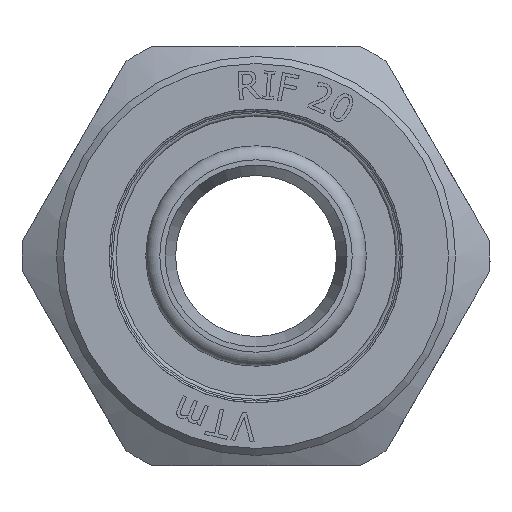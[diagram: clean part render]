
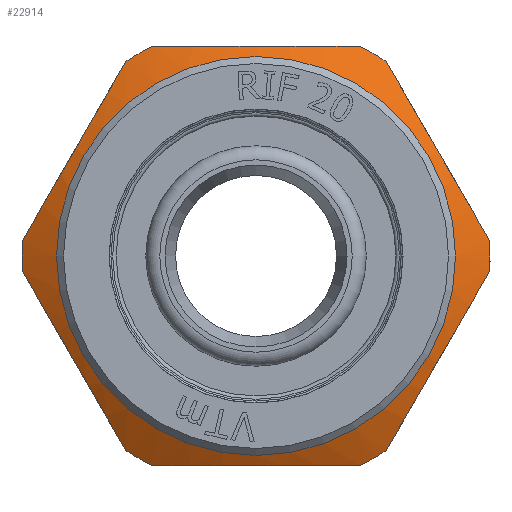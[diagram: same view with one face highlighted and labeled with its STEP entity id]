
A CAD part, left-side view. The second image highlights one B-rep face of the part: STEP entity #22914.
In plain terms, the highlighted conical face has half-angle 60 degrees and reference radius 15.484 mm.
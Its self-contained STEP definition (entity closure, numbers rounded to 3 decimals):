
#84=(
BOUNDED_CURVE()
B_SPLINE_CURVE(2,(#51073,#51074,#51075),.UNSPECIFIED.,.F.,.F.)
B_SPLINE_CURVE_WITH_KNOTS((3,3),(0.,1.489),.UNSPECIFIED.)
CURVE()
GEOMETRIC_REPRESENTATION_ITEM()
RATIONAL_B_SPLINE_CURVE((1.,1.114,1.))
REPRESENTATION_ITEM('')
);
#86=(
BOUNDED_CURVE()
B_SPLINE_CURVE(2,(#51086,#51087,#51088),.UNSPECIFIED.,.F.,.F.)
B_SPLINE_CURVE_WITH_KNOTS((3,3),(0.,1.489),.UNSPECIFIED.)
CURVE()
GEOMETRIC_REPRESENTATION_ITEM()
RATIONAL_B_SPLINE_CURVE((1.,1.114,1.))
REPRESENTATION_ITEM('')
);
#88=(
BOUNDED_CURVE()
B_SPLINE_CURVE(2,(#51099,#51100,#51101),.UNSPECIFIED.,.F.,.F.)
B_SPLINE_CURVE_WITH_KNOTS((3,3),(0.,1.489),.UNSPECIFIED.)
CURVE()
GEOMETRIC_REPRESENTATION_ITEM()
RATIONAL_B_SPLINE_CURVE((1.,1.114,1.))
REPRESENTATION_ITEM('')
);
#90=(
BOUNDED_CURVE()
B_SPLINE_CURVE(2,(#51112,#51113,#51114),.UNSPECIFIED.,.F.,.F.)
B_SPLINE_CURVE_WITH_KNOTS((3,3),(0.,1.489),.UNSPECIFIED.)
CURVE()
GEOMETRIC_REPRESENTATION_ITEM()
RATIONAL_B_SPLINE_CURVE((1.,1.114,1.))
REPRESENTATION_ITEM('')
);
#92=(
BOUNDED_CURVE()
B_SPLINE_CURVE(2,(#51125,#51126,#51127),.UNSPECIFIED.,.F.,.F.)
B_SPLINE_CURVE_WITH_KNOTS((3,3),(0.,1.489),.UNSPECIFIED.)
CURVE()
GEOMETRIC_REPRESENTATION_ITEM()
RATIONAL_B_SPLINE_CURVE((1.,1.114,1.))
REPRESENTATION_ITEM('')
);
#94=(
BOUNDED_CURVE()
B_SPLINE_CURVE(2,(#51138,#51139,#51140),.UNSPECIFIED.,.F.,.F.)
B_SPLINE_CURVE_WITH_KNOTS((3,3),(0.,1.489),.UNSPECIFIED.)
CURVE()
GEOMETRIC_REPRESENTATION_ITEM()
RATIONAL_B_SPLINE_CURVE((1.,1.114,1.))
REPRESENTATION_ITEM('')
);
#2253=CONICAL_SURFACE('',#24057,15.484,1.047);
#3926=FACE_OUTER_BOUND('',#5280,.T.);
#5280=EDGE_LOOP('',(#21393,#21394,#21395,#21396,#21397,#21398,#21399,#21400,
#21401,#21402,#21403,#21404,#21405,#21406,#21407,#21408,#21409));
#6722=LINE('',#51998,#8148);
#8148=VECTOR('',#27712,15.484);
#8392=CIRCLE('',#23603,16.717);
#8393=CIRCLE('',#23605,16.717);
#8394=CIRCLE('',#23606,16.717);
#8395=CIRCLE('',#23608,16.717);
#8396=CIRCLE('',#23610,16.717);
#8397=CIRCLE('',#23612,16.717);
#8719=CIRCLE('',#24055,14.25);
#8720=CIRCLE('',#24056,14.25);
#8721=CIRCLE('',#24058,16.717);
#10762=VERTEX_POINT('',#51071);
#10763=VERTEX_POINT('',#51072);
#10766=VERTEX_POINT('',#51084);
#10767=VERTEX_POINT('',#51085);
#10770=VERTEX_POINT('',#51097);
#10771=VERTEX_POINT('',#51098);
#10774=VERTEX_POINT('',#51110);
#10775=VERTEX_POINT('',#51111);
#10778=VERTEX_POINT('',#51123);
#10779=VERTEX_POINT('',#51124);
#10782=VERTEX_POINT('',#51136);
#10783=VERTEX_POINT('',#51137);
#10787=VERTEX_POINT('',#51161);
#11076=VERTEX_POINT('',#51992);
#11077=VERTEX_POINT('',#51994);
#14117=EDGE_CURVE('',#10762,#10763,#84,.T.);
#14121=EDGE_CURVE('',#10766,#10767,#86,.T.);
#14125=EDGE_CURVE('',#10770,#10771,#88,.T.);
#14129=EDGE_CURVE('',#10774,#10775,#90,.T.);
#14133=EDGE_CURVE('',#10778,#10779,#92,.T.);
#14137=EDGE_CURVE('',#10782,#10783,#94,.T.);
#14149=EDGE_CURVE('',#10783,#10762,#8392,.T.);
#14150=EDGE_CURVE('',#10787,#10782,#8393,.T.);
#14151=EDGE_CURVE('',#10779,#10787,#8394,.T.);
#14152=EDGE_CURVE('',#10775,#10778,#8395,.T.);
#14153=EDGE_CURVE('',#10771,#10774,#8396,.T.);
#14154=EDGE_CURVE('',#10767,#10770,#8397,.T.);
#14545=EDGE_CURVE('',#11076,#11077,#8719,.T.);
#14546=EDGE_CURVE('',#11077,#11076,#8720,.T.);
#14547=EDGE_CURVE('',#11076,#10787,#6722,.T.);
#14548=EDGE_CURVE('',#10763,#10766,#8721,.T.);
#21393=ORIENTED_EDGE('',*,*,#14546,.F.);
#21394=ORIENTED_EDGE('',*,*,#14545,.F.);
#21395=ORIENTED_EDGE('',*,*,#14547,.T.);
#21396=ORIENTED_EDGE('',*,*,#14150,.T.);
#21397=ORIENTED_EDGE('',*,*,#14137,.T.);
#21398=ORIENTED_EDGE('',*,*,#14149,.T.);
#21399=ORIENTED_EDGE('',*,*,#14117,.T.);
#21400=ORIENTED_EDGE('',*,*,#14548,.T.);
#21401=ORIENTED_EDGE('',*,*,#14121,.T.);
#21402=ORIENTED_EDGE('',*,*,#14154,.T.);
#21403=ORIENTED_EDGE('',*,*,#14125,.T.);
#21404=ORIENTED_EDGE('',*,*,#14153,.T.);
#21405=ORIENTED_EDGE('',*,*,#14129,.T.);
#21406=ORIENTED_EDGE('',*,*,#14152,.T.);
#21407=ORIENTED_EDGE('',*,*,#14133,.T.);
#21408=ORIENTED_EDGE('',*,*,#14151,.T.);
#21409=ORIENTED_EDGE('',*,*,#14547,.F.);
#22914=ADVANCED_FACE('',(#3926),#2253,.T.);
#23603=AXIS2_PLACEMENT_3D('',#51159,#26745,#26746);
#23605=AXIS2_PLACEMENT_3D('',#51162,#26749,#26750);
#23606=AXIS2_PLACEMENT_3D('',#51163,#26751,#26752);
#23608=AXIS2_PLACEMENT_3D('',#51165,#26755,#26756);
#23610=AXIS2_PLACEMENT_3D('',#51167,#26759,#26760);
#23612=AXIS2_PLACEMENT_3D('',#51169,#26763,#26764);
#24055=AXIS2_PLACEMENT_3D('',#51995,#27706,#27707);
#24056=AXIS2_PLACEMENT_3D('',#51996,#27708,#27709);
#24057=AXIS2_PLACEMENT_3D('',#51997,#27710,#27711);
#24058=AXIS2_PLACEMENT_3D('',#51999,#27713,#27714);
#26745=DIRECTION('center_axis',(-1.,0.,0.));
#26746=DIRECTION('ref_axis',(0.,0.,1.));
#26749=DIRECTION('center_axis',(-1.,0.,0.));
#26750=DIRECTION('ref_axis',(0.,0.,1.));
#26751=DIRECTION('center_axis',(-1.,0.,0.));
#26752=DIRECTION('ref_axis',(0.,0.,1.));
#26755=DIRECTION('center_axis',(-1.,0.,0.));
#26756=DIRECTION('ref_axis',(0.,0.,1.));
#26759=DIRECTION('center_axis',(-1.,0.,0.));
#26760=DIRECTION('ref_axis',(0.,0.,1.));
#26763=DIRECTION('center_axis',(-1.,0.,0.));
#26764=DIRECTION('ref_axis',(0.,0.,1.));
#27706=DIRECTION('center_axis',(-1.,0.,0.));
#27707=DIRECTION('ref_axis',(0.,0.,1.));
#27708=DIRECTION('center_axis',(-1.,0.,0.));
#27709=DIRECTION('ref_axis',(0.,0.,1.));
#27710=DIRECTION('center_axis',(1.,0.,0.));
#27711=DIRECTION('ref_axis',(0.,-1.,0.));
#27712=DIRECTION('',(0.5,0.866,0.));
#27713=DIRECTION('center_axis',(-1.,0.,0.));
#27714=DIRECTION('ref_axis',(0.,0.,1.));
#51071=CARTESIAN_POINT('',(-21.057,7.38,-15.));
#51072=CARTESIAN_POINT('',(-21.057,-7.38,-15.));
#51073=CARTESIAN_POINT('Ctrl Pts',(-21.057,7.38,-15.));
#51074=CARTESIAN_POINT('Ctrl Pts',(-22.938,0.,
-15.));
#51075=CARTESIAN_POINT('Ctrl Pts',(-21.057,-7.38,-15.));
#51084=CARTESIAN_POINT('',(-21.057,-9.3,-13.892));
#51085=CARTESIAN_POINT('',(-21.057,-16.681,-1.108));
#51086=CARTESIAN_POINT('Ctrl Pts',(-21.057,-9.3,-13.892));
#51087=CARTESIAN_POINT('Ctrl Pts',(-22.938,-12.99,
-7.5));
#51088=CARTESIAN_POINT('Ctrl Pts',(-21.057,-16.681,-1.108));
#51097=CARTESIAN_POINT('',(-21.057,-16.681,1.108));
#51098=CARTESIAN_POINT('',(-21.057,-9.3,13.892));
#51099=CARTESIAN_POINT('Ctrl Pts',(-21.057,-16.681,1.108));
#51100=CARTESIAN_POINT('Ctrl Pts',(-22.938,-12.99,
7.5));
#51101=CARTESIAN_POINT('Ctrl Pts',(-21.057,-9.3,13.892));
#51110=CARTESIAN_POINT('',(-21.057,-7.38,15.));
#51111=CARTESIAN_POINT('',(-21.057,7.38,15.));
#51112=CARTESIAN_POINT('Ctrl Pts',(-21.057,-7.38,15.));
#51113=CARTESIAN_POINT('Ctrl Pts',(-22.938,0.,
15.));
#51114=CARTESIAN_POINT('Ctrl Pts',(-21.057,7.38,15.));
#51123=CARTESIAN_POINT('',(-21.057,9.3,13.892));
#51124=CARTESIAN_POINT('',(-21.057,16.681,1.108));
#51125=CARTESIAN_POINT('Ctrl Pts',(-21.057,9.3,13.892));
#51126=CARTESIAN_POINT('Ctrl Pts',(-22.938,12.99,7.5));
#51127=CARTESIAN_POINT('Ctrl Pts',(-21.057,16.681,1.108));
#51136=CARTESIAN_POINT('',(-21.057,16.681,-1.108));
#51137=CARTESIAN_POINT('',(-21.057,9.3,-13.892));
#51138=CARTESIAN_POINT('Ctrl Pts',(-21.057,16.681,-1.108));
#51139=CARTESIAN_POINT('Ctrl Pts',(-22.938,12.99,-7.5));
#51140=CARTESIAN_POINT('Ctrl Pts',(-21.057,9.3,-13.892));
#51159=CARTESIAN_POINT('Origin',(-21.057,0.,0.));
#51161=CARTESIAN_POINT('',(-21.057,16.717,0.));
#51162=CARTESIAN_POINT('Origin',(-21.057,0.,0.));
#51163=CARTESIAN_POINT('Origin',(-21.057,0.,0.));
#51165=CARTESIAN_POINT('Origin',(-21.057,0.,0.));
#51167=CARTESIAN_POINT('Origin',(-21.057,0.,0.));
#51169=CARTESIAN_POINT('Origin',(-21.057,0.,0.));
#51992=CARTESIAN_POINT('',(-22.481,14.25,0.));
#51994=CARTESIAN_POINT('',(-22.481,-14.25,0.));
#51995=CARTESIAN_POINT('Origin',(-22.481,0.,0.));
#51996=CARTESIAN_POINT('Origin',(-22.481,0.,0.));
#51997=CARTESIAN_POINT('Origin',(-21.769,0.,0.));
#51998=CARTESIAN_POINT('',(-21.769,15.484,0.));
#51999=CARTESIAN_POINT('Origin',(-21.057,0.,0.));
